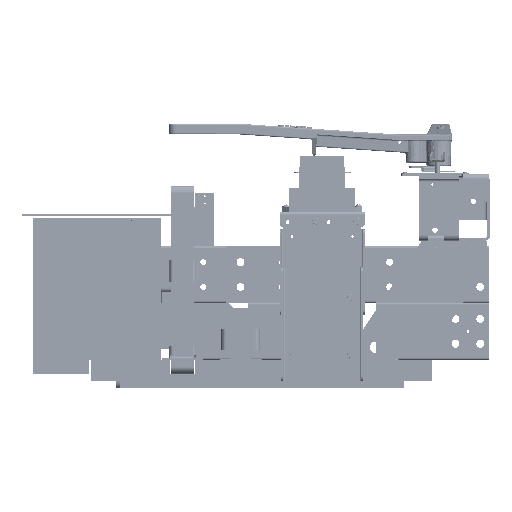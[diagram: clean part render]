
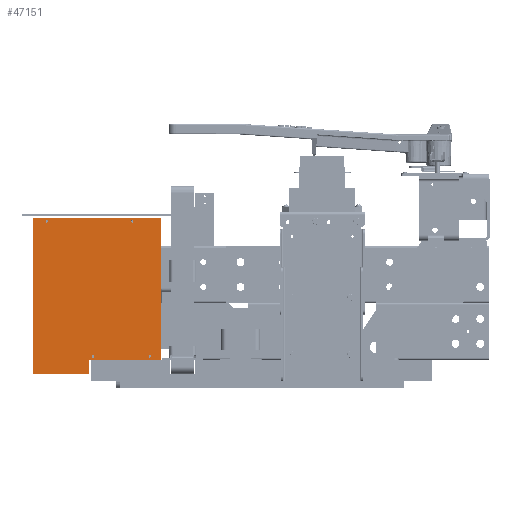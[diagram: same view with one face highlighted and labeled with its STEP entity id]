
A CAD part, left-side view. The second image highlights one B-rep face of the part: STEP entity #47151.
In plain terms, the highlighted planar face has unit normal (-1, 0, 0) as drawn and (0, 0, -1) by its records, which use the part's own axes.
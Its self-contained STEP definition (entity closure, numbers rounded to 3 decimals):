
#3177=FACE_BOUND('',#9871,.T.);
#3178=FACE_BOUND('',#9872,.T.);
#3179=FACE_BOUND('',#9873,.T.);
#3180=FACE_BOUND('',#9874,.T.);
#4570=CIRCLE('',#51950,0.097);
#4572=CIRCLE('',#51953,0.097);
#4574=CIRCLE('',#51956,0.097);
#4576=CIRCLE('',#51959,0.097);
#6830=FACE_OUTER_BOUND('',#9870,.T.);
#9870=EDGE_LOOP('',(#35903,#35904,#35905,#35906,#35907,#35908));
#9871=EDGE_LOOP('',(#35909));
#9872=EDGE_LOOP('',(#35910));
#9873=EDGE_LOOP('',(#35911));
#9874=EDGE_LOOP('',(#35912));
#13590=LINE('',#73808,#17615);
#13594=LINE('',#73816,#17619);
#13597=LINE('',#73822,#17622);
#13600=LINE('',#73828,#17625);
#13603=LINE('',#73834,#17628);
#13606=LINE('',#73839,#17631);
#17615=VECTOR('',#59923,0.394);
#17619=VECTOR('',#59929,0.394);
#17622=VECTOR('',#59934,0.394);
#17625=VECTOR('',#59939,0.394);
#17628=VECTOR('',#59944,0.394);
#17631=VECTOR('',#59949,0.394);
#21748=VERTEX_POINT('',#73784);
#21750=VERTEX_POINT('',#73790);
#21752=VERTEX_POINT('',#73796);
#21754=VERTEX_POINT('',#73802);
#21755=VERTEX_POINT('',#73806);
#21756=VERTEX_POINT('',#73807);
#21759=VERTEX_POINT('',#73815);
#21761=VERTEX_POINT('',#73821);
#21763=VERTEX_POINT('',#73827);
#21765=VERTEX_POINT('',#73833);
#26892=EDGE_CURVE('',#21748,#21748,#4570,.T.);
#26895=EDGE_CURVE('',#21750,#21750,#4572,.T.);
#26898=EDGE_CURVE('',#21752,#21752,#4574,.T.);
#26901=EDGE_CURVE('',#21754,#21754,#4576,.T.);
#26902=EDGE_CURVE('',#21755,#21756,#13590,.T.);
#26906=EDGE_CURVE('',#21756,#21759,#13594,.T.);
#26909=EDGE_CURVE('',#21759,#21761,#13597,.T.);
#26912=EDGE_CURVE('',#21761,#21763,#13600,.T.);
#26915=EDGE_CURVE('',#21763,#21765,#13603,.T.);
#26918=EDGE_CURVE('',#21765,#21755,#13606,.T.);
#35903=ORIENTED_EDGE('',*,*,#26902,.F.);
#35904=ORIENTED_EDGE('',*,*,#26918,.F.);
#35905=ORIENTED_EDGE('',*,*,#26915,.F.);
#35906=ORIENTED_EDGE('',*,*,#26912,.F.);
#35907=ORIENTED_EDGE('',*,*,#26909,.F.);
#35908=ORIENTED_EDGE('',*,*,#26906,.F.);
#35909=ORIENTED_EDGE('',*,*,#26892,.T.);
#35910=ORIENTED_EDGE('',*,*,#26895,.T.);
#35911=ORIENTED_EDGE('',*,*,#26898,.T.);
#35912=ORIENTED_EDGE('',*,*,#26901,.T.);
#45450=PLANE('',#51966);
#47151=ADVANCED_FACE('',(#6830,#3177,#3178,#3179,#3180),#45450,.F.);
#51950=AXIS2_PLACEMENT_3D('',#73786,#59898,#59899);
#51953=AXIS2_PLACEMENT_3D('',#73792,#59905,#59906);
#51956=AXIS2_PLACEMENT_3D('',#73798,#59912,#59913);
#51959=AXIS2_PLACEMENT_3D('',#73804,#59919,#59920);
#51966=AXIS2_PLACEMENT_3D('',#73841,#59951,#59952);
#59898=DIRECTION('center_axis',(0.,0.,1.));
#59899=DIRECTION('ref_axis',(-1.,0.,0.));
#59905=DIRECTION('center_axis',(0.,0.,1.));
#59906=DIRECTION('ref_axis',(-1.,0.,0.));
#59912=DIRECTION('center_axis',(0.,0.,1.));
#59913=DIRECTION('ref_axis',(-1.,0.,0.));
#59919=DIRECTION('center_axis',(0.,0.,1.));
#59920=DIRECTION('ref_axis',(-1.,0.,0.));
#59923=DIRECTION('',(0.,-1.,0.));
#59929=DIRECTION('',(1.,0.,0.));
#59934=DIRECTION('',(0.,1.,0.));
#59939=DIRECTION('',(1.,0.,0.));
#59944=DIRECTION('',(0.,1.,0.));
#59949=DIRECTION('',(-1.,0.,0.));
#59951=DIRECTION('center_axis',(0.,0.,1.));
#59952=DIRECTION('ref_axis',(1.,0.,0.));
#73784=CARTESIAN_POINT('',(9.847,4.75,-0.125));
#73786=CARTESIAN_POINT('Origin',(9.75,4.75,-0.125));
#73790=CARTESIAN_POINT('',(9.847,0.75,-0.125));
#73792=CARTESIAN_POINT('Origin',(9.75,0.75,-0.125));
#73796=CARTESIAN_POINT('',(0.347,8.,-0.125));
#73798=CARTESIAN_POINT('Origin',(0.25,8.,-0.125));
#73802=CARTESIAN_POINT('',(0.347,2.,-0.125));
#73804=CARTESIAN_POINT('Origin',(0.25,2.,-0.125));
#73806=CARTESIAN_POINT('',(0.,9.,-0.125));
#73807=CARTESIAN_POINT('',(0.,0.,-0.125));
#73808=CARTESIAN_POINT('',(0.,9.,-0.125));
#73815=CARTESIAN_POINT('',(10.,0.,-0.125));
#73816=CARTESIAN_POINT('',(0.,0.,-0.125));
#73821=CARTESIAN_POINT('',(10.,5.063,-0.125));
#73822=CARTESIAN_POINT('',(10.,0.,-0.125));
#73827=CARTESIAN_POINT('',(11.,5.063,-0.125));
#73828=CARTESIAN_POINT('',(10.,5.063,-0.125));
#73833=CARTESIAN_POINT('',(11.,9.,-0.125));
#73834=CARTESIAN_POINT('',(11.,5.063,-0.125));
#73839=CARTESIAN_POINT('',(11.,9.,-0.125));
#73841=CARTESIAN_POINT('Origin',(5.373,4.627,-0.125));
